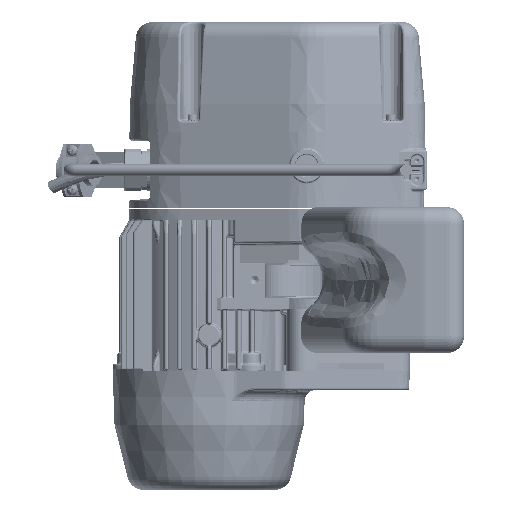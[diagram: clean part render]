
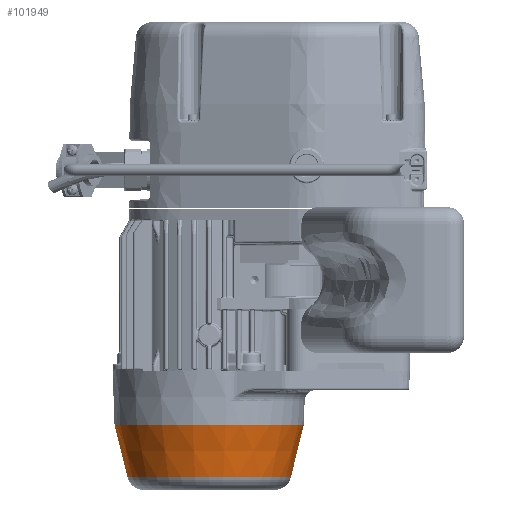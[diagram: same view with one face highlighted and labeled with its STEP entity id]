
A CAD part, front view. The second image highlights one B-rep face of the part: STEP entity #101949.
In plain terms, the highlighted conical face has half-angle 13.829 degrees and reference radius 70 mm.
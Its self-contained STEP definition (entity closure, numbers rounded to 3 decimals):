
#1434 = CARTESIAN_POINT ( 'NONE',  ( 70., 0., -106. ) ) ;
#4349 = DIRECTION ( 'NONE',  ( 0., 0., -1. ) ) ;
#10589 = EDGE_CURVE ( 'NONE', #59484, #221300, #211180, .T. ) ;
#17393 = VERTEX_POINT ( 'NONE', #300835 ) ;
#24658 = ORIENTED_EDGE ( 'NONE', *, *, #307544, .T. ) ;
#59484 = VERTEX_POINT ( 'NONE', #325213 ) ;
#62389 = DIRECTION ( 'NONE',  ( 0., 0., 1. ) ) ;
#63303 = AXIS2_PLACEMENT_3D ( 'NONE', #110365, #310158, #148827 ) ;
#64139 = EDGE_LOOP ( 'NONE', ( #120292, #260802, #167391, #24658 ) ) ;
#75380 = DIRECTION ( 'NONE',  ( -0.239, 0., 0.971 ) ) ;
#79599 = VERTEX_POINT ( 'NONE', #131272 ) ;
#96482 = CARTESIAN_POINT ( 'NONE',  ( 72.81, 0., -94.585 ) ) ;
#101949 = ADVANCED_FACE ( 'NONE', ( #215643 ), #287143, .T. ) ;
#109832 = CARTESIAN_POINT ( 'NONE',  ( 0., 0., -94.585 ) ) ;
#110365 = CARTESIAN_POINT ( 'NONE',  ( 0., 0., -106. ) ) ;
#120292 = ORIENTED_EDGE ( 'NONE', *, *, #134466, .F. ) ;
#120485 = CIRCLE ( 'NONE', #316538, 84.332 ) ;
#131272 = CARTESIAN_POINT ( 'NONE',  ( -84.332, 0., -47.778 ) ) ;
#134466 = EDGE_CURVE ( 'NONE', #59484, #79599, #180706, .T. ) ;
#139584 = DIRECTION ( 'NONE',  ( -1., 0., 0. ) ) ;
#148827 = DIRECTION ( 'NONE',  ( 1., 0., 0. ) ) ;
#167391 = ORIENTED_EDGE ( 'NONE', *, *, #252560, .T. ) ;
#180706 = LINE ( 'NONE', #259619, #221899 ) ;
#211180 = CIRCLE ( 'NONE', #234199, 72.81 ) ;
#213751 = LINE ( 'NONE', #1434, #334858 ) ;
#215643 = FACE_OUTER_BOUND ( 'NONE', #64139, .T. ) ;
#221300 = VERTEX_POINT ( 'NONE', #96482 ) ;
#221899 = VECTOR ( 'NONE', #75380, 1000. ) ;
#234199 = AXIS2_PLACEMENT_3D ( 'NONE', #109832, #62389, #139584 ) ;
#251525 = DIRECTION ( 'NONE',  ( -1., 0., 0. ) ) ;
#252560 = EDGE_CURVE ( 'NONE', #221300, #17393, #213751, .T. ) ;
#259619 = CARTESIAN_POINT ( 'NONE',  ( -70., 0., -106. ) ) ;
#260802 = ORIENTED_EDGE ( 'NONE', *, *, #10589, .T. ) ;
#287143 = CONICAL_SURFACE ( 'NONE', #63303, 70., 0.241 ) ;
#300835 = CARTESIAN_POINT ( 'NONE',  ( 84.332, 0., -47.778 ) ) ;
#306584 = DIRECTION ( 'NONE',  ( 0.239, 0., 0.971 ) ) ;
#307544 = EDGE_CURVE ( 'NONE', #17393, #79599, #120485, .T. ) ;
#310158 = DIRECTION ( 'NONE',  ( 0., 0., 1. ) ) ;
#316538 = AXIS2_PLACEMENT_3D ( 'NONE', #330560, #4349, #251525 ) ;
#325213 = CARTESIAN_POINT ( 'NONE',  ( -72.81, 0., -94.585 ) ) ;
#330560 = CARTESIAN_POINT ( 'NONE',  ( 0., 0., -47.778 ) ) ;
#334858 = VECTOR ( 'NONE', #306584, 1000. ) ;
